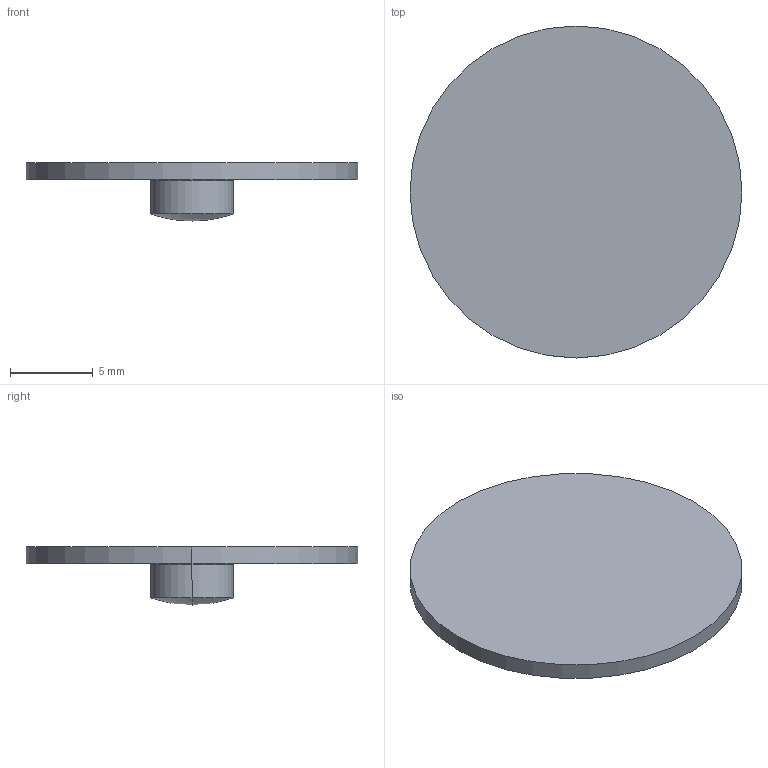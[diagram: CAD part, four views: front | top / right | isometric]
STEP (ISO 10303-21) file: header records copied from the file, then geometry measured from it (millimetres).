
FILE_DESCRIPTION(('STEP AP214'),'1');
FILE_NAME('LLU-3-13.STEP','2020-03-09T17:42:12',(' '),(' '),'Spatial InterOp 3D',' ',' ');
FILE_SCHEMA(('AUTOMOTIVE_DESIGN { 1 0 10303 214 1 1 1 1 }'));
Length unit declared in the file: millimetre
Products named in the file (1): 1
Bounding box: 20 x 20 x 3.5 mm (x, y, z)
Volume: 358.3 mm3; surface area: 762.4 mm2
Topology: 2 solids, 2 shells, 10 faces, 20 edges, 10 vertices
Faces by surface type: sphere 4, cylinder 4, plane 2
Entity records: 255 total; most frequent: DIRECTION 52, CARTESIAN_POINT 38, ORIENTED_EDGE 32, AXIS2_PLACEMENT_3D 24, EDGE_CURVE 16, CIRCLE 12, ADVANCED_FACE 10, FACE_OUTER_BOUND 10
